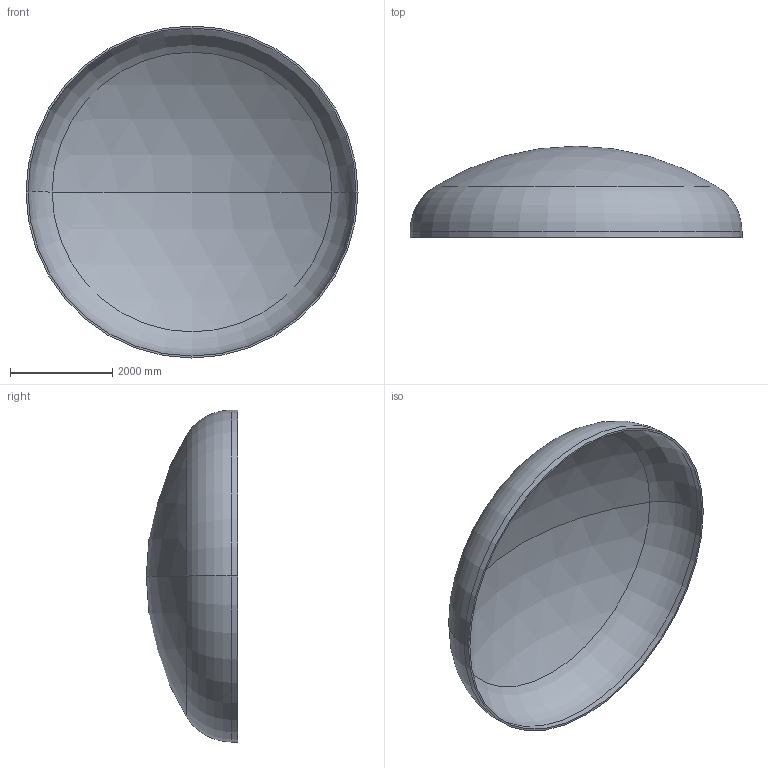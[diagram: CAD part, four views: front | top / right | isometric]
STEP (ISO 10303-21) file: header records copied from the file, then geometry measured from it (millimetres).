
FILE_DESCRIPTION (( 'STEP AP203' ), '1' );
FILE_NAME ('DIN 28013 Korbbogenform_-_Boden DIN 28013 - 6500 x 120 - I - s=38.step', '2016-07-04T10:41:39', ( '' ), ( '' ), 'SwSTEP 2.0', 'SolidWorks 2013', '' );
FILE_SCHEMA (( 'CONFIG_CONTROL_DESIGN' ));
Length unit declared in the file: millimetre
Products named in the file (1): DIN 28013 Korbbogenform_-_Boden DIN 28013 - 6500 x 120 - I - s=38
Bounding box: 6500 x 1787.7 x 6500 mm (x, y, z)
Volume: 1825237625.8 mm3; surface area: 96839561.9 mm2
Topology: 1 solids, 1 shells, 13 faces, 24 edges, 14 vertices
Faces by surface type: torus 4, cylinder 4, sphere 4, plane 1
Entity records: 407 total; most frequent: DIRECTION 72, CARTESIAN_POINT 52, ORIENTED_EDGE 48, AXIS2_PLACEMENT_3D 34, EDGE_CURVE 24, CIRCLE 20, EDGE_LOOP 14, VERTEX_POINT 14
